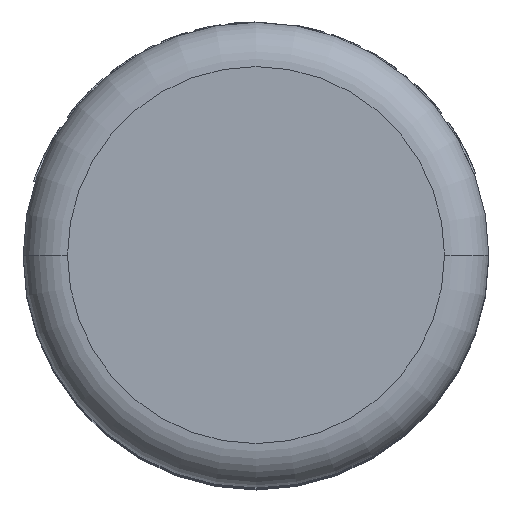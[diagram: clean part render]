
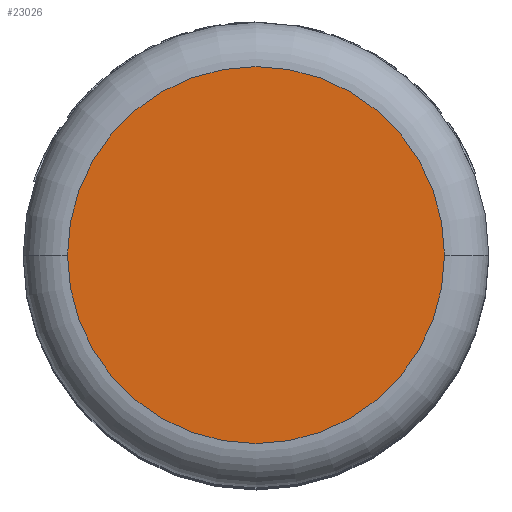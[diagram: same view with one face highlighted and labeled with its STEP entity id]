
A CAD part, top view. The second image highlights one B-rep face of the part: STEP entity #23026.
In plain terms, the highlighted planar face has unit normal (0, 0, 1) as drawn and (0, 0, -1) by its records, which use the part's own axes.
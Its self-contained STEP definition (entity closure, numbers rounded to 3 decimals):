
#20625=CARTESIAN_POINT('',(0.,0.,0.));
#20626=DIRECTION('',(0.,0.,-1.));
#20627=DIRECTION('',(1.,0.,0.));
#20628=AXIS2_PLACEMENT_3D('',#20625,#20626,#20627);
#20630=CARTESIAN_POINT('',(0.,0.,0.));
#20631=DIRECTION('',(0.,0.,-1.));
#20632=DIRECTION('',(-1.,0.,0.));
#20633=AXIS2_PLACEMENT_3D('',#20630,#20631,#20632);
#22910=CARTESIAN_POINT('',(34.,0.,0.));
#22911=CARTESIAN_POINT('',(-34.,0.,0.));
#22912=VERTEX_POINT('',#22910);
#22913=VERTEX_POINT('',#22911);
#23015=CARTESIAN_POINT('',(0.,0.,0.));
#23016=DIRECTION('',(0.,0.,1.));
#23017=DIRECTION('',(1.,0.,0.));
#23018=AXIS2_PLACEMENT_3D('',#23015,#23016,#23017);
#23019=PLANE('',#23018);
#23021=ORIENTED_EDGE('',*,*,#23020,.F.);
#23023=ORIENTED_EDGE('',*,*,#23022,.F.);
#23024=EDGE_LOOP('',(#23021,#23023));
#23025=FACE_OUTER_BOUND('',#23024,.F.);
#23026=ADVANCED_FACE('',(#23025),#23019,.F.);
#20629=CIRCLE('',#20628,34.);
#20634=CIRCLE('',#20633,34.);
#23020=EDGE_CURVE('',#22912,#22913,#20629,.T.);
#23022=EDGE_CURVE('',#22913,#22912,#20634,.T.);
